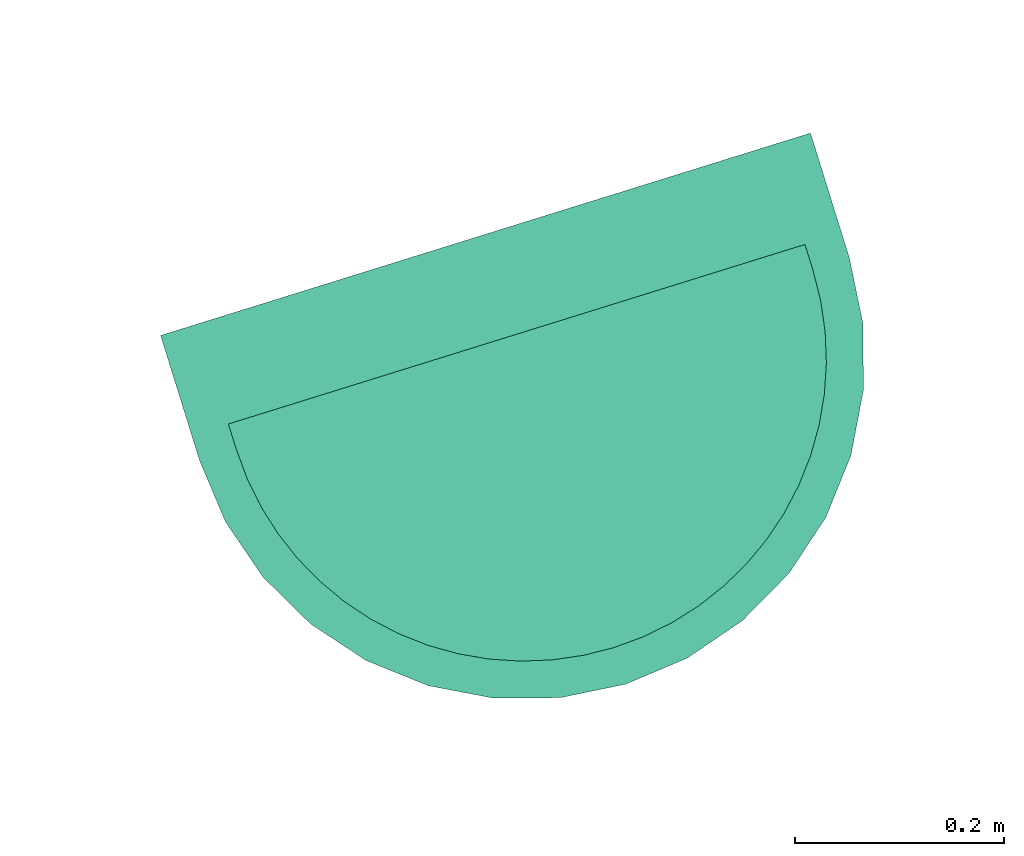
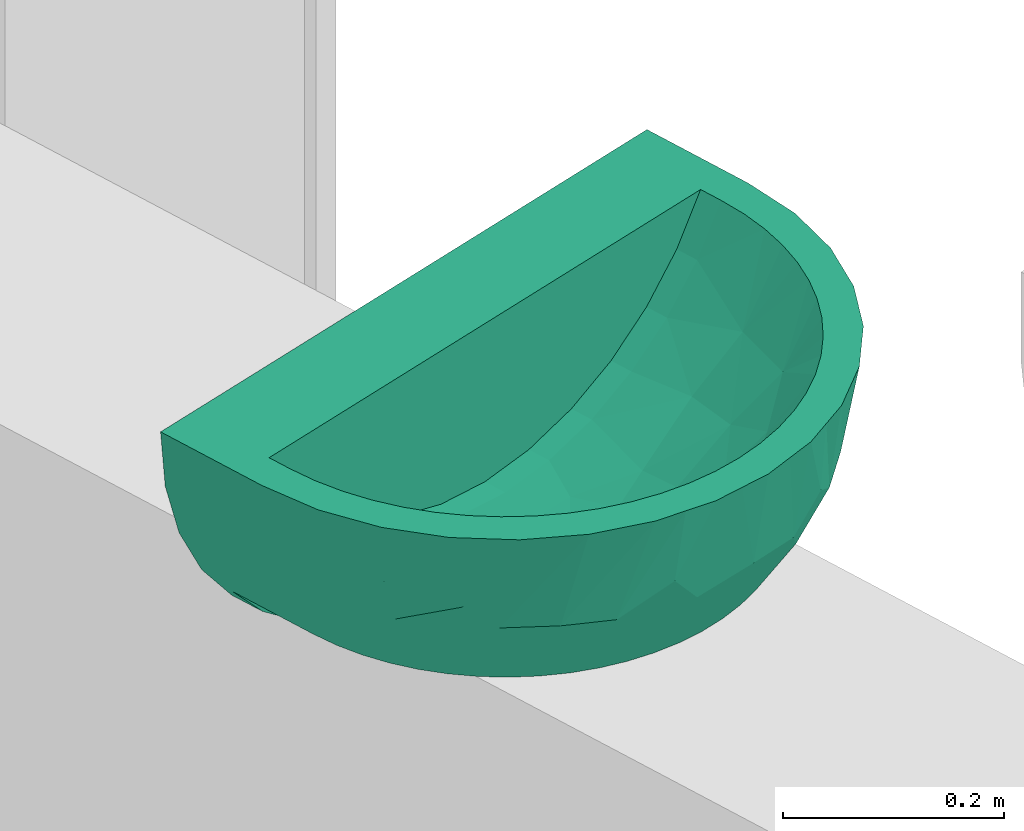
# Not in any storey, part 12 of 17: 1 sanitary terminal.
"""IFC4 model written with IfcOpenShell, lengths in metres."""

from ifc_helpers import new_model, entity, si_unit, converted_unit, direction, frame, origin, place, context, subcontext, project, polygons, source, transform, mapped, material, type_object, type_shapes, element, save


model = new_model("IFC4")

# Units and contexts
model_context = context("Model", 3, precision=1e-05, world=origin(), true_north=direction((6.12323399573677e-17, 1.0)))
body_context = subcontext(model_context, "Body", "Model", "MODEL_VIEW")
ifc_project = project(units=[si_unit("LENGTHUNIT", "METRE"), si_unit("AREAUNIT", "SQUARE_METRE"), converted_unit("PLANEANGLEUNIT", "DEGREE", entity("IfcPlaneAngleMeasure", 0.0174532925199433), si_unit("PLANEANGLEUNIT", "RADIAN"), dimensions=[0, 0, 0, 0, 0, 0, 0]), si_unit("VOLUMEUNIT", "CUBIC_METRE")], contexts=[model_context])

# Sanitary terminal
ifc_material = material(Name="<Unnamed>")
sanitary_terminal_type = type_object("IfcSanitaryTerminalType", Name="NLRS_74_PF_WB_wastafel_gen:wastafel", PredefinedType="SINK", material=ifc_material)
shared_shape = source(origin(), body_context, "Body", "Tessellation", [
    polygons([(-0.303081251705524, 0.175000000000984, -3.7), (-0.303081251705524, 0.0499999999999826, -3.7), (0.021918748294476, 0.0499999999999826, -3.7), (0.021918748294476, 0.150000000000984, -3.7), (-0.266395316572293, 0.150000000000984, -3.7), (-0.266395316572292, 0.175000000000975, -3.7), (-0.264816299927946, 0.205133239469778, -3.7), (-0.260095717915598, 0.234940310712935, -3.7), (-0.252285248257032, 0.264090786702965, -3.7), (-0.241470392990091, 0.292265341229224, -3.7), (-0.227769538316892, 0.319155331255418, -3.7), (-0.21133265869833, 0.344466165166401, -3.7), (-0.192339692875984, 0.367920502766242, -3.7), (-0.170998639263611, 0.389261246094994, -3.7), (-0.147543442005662, 0.408254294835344, -3.7), (-0.122231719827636, 0.424691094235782, -3.7), (-0.0953421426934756, 0.438391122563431, -3.7), (-0.0671705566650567, 0.449204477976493, -3.7), (-0.038024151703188, 0.457013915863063, -3.7), (-0.00821701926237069, 0.461734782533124, -3.7), (0.021918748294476, 0.463314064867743, -3.7), (0.021918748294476, 0.500000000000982, -3.7), (-0.0414856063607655, 0.493755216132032, -3.7), (-0.102453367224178, 0.475260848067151, -3.7), (-0.158641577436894, 0.44522762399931, -3.7), (-0.207890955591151, 0.404809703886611, -3.7), (-0.248308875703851, 0.355560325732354, -3.7), (-0.278342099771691, 0.299372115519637, -3.7), (-0.296836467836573, 0.238404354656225, -3.7), (0.346918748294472, 0.175000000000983, -3.7), (0.340673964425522, 0.238404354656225, -3.7), (0.32217959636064, 0.299372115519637, -3.7), (0.292146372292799, 0.355560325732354, -3.7), (0.2517284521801, 0.404809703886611, -3.7), (0.202479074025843, 0.44522762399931, -3.7), (0.146290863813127, 0.475260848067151, -3.7), (0.0853231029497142, 0.493755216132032, -3.7), (0.0520545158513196, 0.461734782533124, -3.7), (0.0818616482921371, 0.457013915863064, -3.7), (0.111008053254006, 0.449204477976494, -3.7), (0.139179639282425, 0.438391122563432, -3.7), (0.166069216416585, 0.424691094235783, -3.7), (0.191380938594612, 0.408254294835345, -3.7), (0.214836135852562, 0.389261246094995, -3.7), (0.236177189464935, 0.367920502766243, -3.7), (0.255170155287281, 0.344466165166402, -3.7), (0.271607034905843, 0.319155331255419, -3.7), (0.285307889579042, 0.292265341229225, -3.7), (0.296122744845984, 0.264090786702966, -3.7), (0.303933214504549, 0.234940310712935, -3.7), (0.308653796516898, 0.205133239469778, -3.7), (0.310232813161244, 0.175000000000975, -3.7), (0.310232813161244, 0.150000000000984, -3.7), (0.346918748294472, 0.0499999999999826, -3.7), (-0.298628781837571, 0.175000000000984, -3.75361232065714), (-0.285393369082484, 0.175000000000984, -3.8057556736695), (-0.263737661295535, 0.175000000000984, -3.85500134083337), (-0.234255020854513, 0.175000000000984, -3.9), (-0.234255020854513, 0.0749999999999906, -3.9), (-0.193925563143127, 0.0749999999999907, -3.94297372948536), (-0.146498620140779, 0.0749999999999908, -3.97795789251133), (-0.0935337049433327, 0.0749999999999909, -4.00380212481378), (-0.0367724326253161, 0.074999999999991, -4.01965660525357), (0.0219187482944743, 0.074999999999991, -4.025), (0.0806099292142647, 0.074999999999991, -4.01965660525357), (0.137371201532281, 0.0749999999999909, -4.00380212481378), (0.190336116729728, 0.0749999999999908, -3.97795789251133), (0.237763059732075, 0.0749999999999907, -3.94297372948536), (0.278092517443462, 0.0749999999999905, -3.9), (0.278092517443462, 0.175000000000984, -3.9), (0.307575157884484, 0.175000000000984, -3.85500134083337), (0.329230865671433, 0.175000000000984, -3.8057556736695), (0.34246627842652, 0.175000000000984, -3.75361232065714), (0.340673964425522, 0.0499999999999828, -3.76340435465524), (0.32217959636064, 0.049999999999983, -3.82437211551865), (0.292146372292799, 0.0499999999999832, -3.88056032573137), (0.2517284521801, 0.0499999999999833, -3.92980970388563), (0.202479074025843, 0.0499999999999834, -3.97022762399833), (0.146290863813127, 0.0499999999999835, -4.00026084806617), (0.085323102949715, 0.0499999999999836, -4.01875521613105), (0.0219187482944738, 0.0499999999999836, -4.025), (-0.0414856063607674, 0.0499999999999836, -4.01875521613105), (-0.102453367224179, 0.0499999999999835, -4.00026084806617), (-0.158641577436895, 0.0499999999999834, -3.97022762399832), (-0.207890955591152, 0.0499999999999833, -3.92980970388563), (-0.248308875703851, 0.0499999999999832, -3.88056032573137), (-0.278342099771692, 0.049999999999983, -3.82437211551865), (-0.296836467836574, 0.0499999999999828, -3.76340435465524), (-0.21409029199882, 0.0749999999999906, -3.92148686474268), (-0.170212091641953, 0.0749999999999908, -3.96046581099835), (0.214049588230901, 0.0749999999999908, -3.96046581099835), (0.257927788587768, 0.0749999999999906, -3.92148686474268), (0.27193741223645, 0.0499999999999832, -3.9051850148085), (0.227103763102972, 0.0499999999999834, -3.95001866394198), (0.174384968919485, 0.0499999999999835, -3.98524423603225), (0.115806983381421, 0.0499999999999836, -4.00950803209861), (-0.0719694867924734, 0.0499999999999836, -4.00950803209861), (-0.130547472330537, 0.0499999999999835, -3.98524423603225), (-0.183266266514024, 0.0499999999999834, -3.95001866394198), (-0.228099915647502, 0.0499999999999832, -3.9051850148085), (0.163853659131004, 0.0749999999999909, -3.99088000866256), (0.108990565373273, 0.0749999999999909, -4.01172936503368), (-0.0651530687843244, 0.0749999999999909, -4.01172936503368), (-0.120016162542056, 0.0749999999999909, -3.99088000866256), (0.27659082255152, 0.202697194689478, -3.9), (0.272103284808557, 0.230069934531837, -3.9), (0.264682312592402, 0.256797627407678, -3.9), (0.254414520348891, 0.282567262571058, -3.9), (0.24141970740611, 0.307076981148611, -3.9), (0.225849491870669, 0.330039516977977, -3.9), (0.207885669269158, 0.351185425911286, -3.9), (0.18773840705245, 0.370266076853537, -3.9), (0.165644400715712, 0.38705644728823, -3.9), (0.141864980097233, 0.401357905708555, -3.9), (0.116683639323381, 0.413001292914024, -3.9), (0.0904016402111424, 0.421850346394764, -3.9), (0.0633306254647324, 0.427804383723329, -3.9), (0.0357845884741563, 0.430798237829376, -3.9), (0.00807674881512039, 0.43079952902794, -3.9), (-0.0194777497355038, 0.427806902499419, -3.9), (-0.0465597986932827, 0.421851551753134, -3.9), (-0.0728496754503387, 0.412999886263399, -3.9), (-0.0980340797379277, 0.401354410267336, -3.9), (-0.121813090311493, 0.387052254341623, -3.9), (-0.1439051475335, 0.370262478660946, -3.9), (-0.164050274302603, 0.351183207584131, -3.9), (-0.182012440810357, 0.33003893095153, -3.9), (-0.197581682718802, 0.307077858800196, -3.9), (-0.210576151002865, 0.282569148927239, -3.9), (-0.220844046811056, 0.256799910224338, -3.9), (-0.228265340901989, 0.230071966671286, -3.9), (-0.232753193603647, 0.202698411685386, -3.9), (-0.257045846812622, 0.297316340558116, -3.81332461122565), (0.300884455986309, 0.297313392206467, -3.81332505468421), (-0.0097834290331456, 0.496877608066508, -3.7), (-0.205655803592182, 0.378737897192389, -3.81102113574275), (0.249493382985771, 0.378737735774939, -3.81102126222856), (0.0536209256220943, 0.496877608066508, -3.7), (0.0219337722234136, 0.481913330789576, -3.80690747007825), (-0.0719694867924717, 0.484508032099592, -3.7), (0.11580698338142, 0.484508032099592, -3.7), (-0.0425022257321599, 0.471258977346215, -3.81707073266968), (-0.165040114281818, 0.416191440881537, -3.81179477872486), (0.20887408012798, 0.416198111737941, -3.81178629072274), (0.0863501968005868, 0.471256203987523, -3.8170719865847), (-0.23446246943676, 0.305265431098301, -3.85140868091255), (0.278301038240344, 0.305263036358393, -3.85140892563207), (-0.120243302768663, 0.443687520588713, -3.81498681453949), (0.164074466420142, 0.443691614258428, -3.81498507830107), (-0.233336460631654, 0.358005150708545, -3.78353976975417), (0.277175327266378, 0.358003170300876, -3.78353992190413), (-0.290060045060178, 0.240925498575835, -3.76283359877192), (0.333897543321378, 0.240925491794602, -3.76283359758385), (-0.275008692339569, 0.237028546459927, -3.81666856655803), (-0.254394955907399, 0.239447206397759, -3.85850014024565), (-0.272362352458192, 0.296908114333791, -3.76451391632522), (0.31884634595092, 0.237026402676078, -3.81666930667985), (0.298232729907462, 0.239444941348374, -3.85850057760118), (0.316201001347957, 0.296905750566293, -3.76451312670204), (-0.0755829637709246, 0.474402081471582, -3.78047862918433), (-0.0690330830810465, 0.449635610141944, -3.84808121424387), (0.119420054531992, 0.474406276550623, -3.7804635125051), (0.112885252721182, 0.449636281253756, -3.84807095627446), (-0.228099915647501, 0.380185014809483, -3.7), (0.27193741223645, 0.380185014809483, -3.7), (-0.183266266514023, 0.425018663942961, -3.7), (0.227103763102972, 0.425018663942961, -3.7), (-0.130547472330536, 0.460244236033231, -3.7), (0.174384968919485, 0.460244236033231, -3.7), (-0.234514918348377, 0.175000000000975, -3.74966665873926), (-0.194178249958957, 0.175000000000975, -3.79274902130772), (-0.146715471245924, 0.175000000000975, -3.82782638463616), (-0.0936917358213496, 0.175000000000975, -3.85374202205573), (-0.0368555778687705, 0.175000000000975, -3.86964132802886), (0.0219187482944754, 0.175000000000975, -3.875), (0.0806930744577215, 0.175000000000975, -3.86964132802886), (0.137529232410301, 0.175000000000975, -3.85374202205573), (0.190552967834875, 0.175000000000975, -3.82782638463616), (0.238015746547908, 0.175000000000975, -3.79274902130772), (0.278352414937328, 0.175000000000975, -3.74966665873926), (-0.119627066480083, 0.322173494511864, -3.80284332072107), (0.163464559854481, 0.32217349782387, -3.8028433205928), (-0.200517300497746, 0.262511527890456, -3.77020203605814), (0.244354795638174, 0.262511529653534, -3.77020203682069), (-0.162633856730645, 0.347041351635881, -3.75485875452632), (0.206471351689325, 0.347041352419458, -3.75485875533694), (0.00220012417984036, 0.367185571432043, -3.81134437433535), (-0.0912046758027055, 0.393814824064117, -3.76200981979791), (0.135042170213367, 0.393814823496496, -3.76200982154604), (0.0498196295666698, 0.280825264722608, -3.85601887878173), (-0.0620730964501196, 0.266760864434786, -3.85025041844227), (0.160889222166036, 0.248929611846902, -3.83433540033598), (0.0405814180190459, 0.417340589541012, -3.76574926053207), (0.0863370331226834, 0.354389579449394, -3.81323879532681), (-0.00909478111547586, 0.420066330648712, -3.76120050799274), (-0.0478694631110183, 0.381606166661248, -3.79097405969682), (-0.0422183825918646, 0.327597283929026, -3.82968821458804), (-0.0074080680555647, 0.286981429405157, -3.8536858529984), (-0.00719351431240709, 0.22811728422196, -3.869305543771), (-0.0504034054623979, 0.422275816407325, -3.7481140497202), (0.115439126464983, 0.298042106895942, -3.83590134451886), (0.101584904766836, 0.237319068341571, -3.85886022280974), (-0.144773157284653, 0.251326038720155, -3.81835264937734), (0.0860600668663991, 0.418745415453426, -3.75518056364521), (-0.234512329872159, 0.150000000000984, -3.74966998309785), (-0.19417475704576, 0.150000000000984, -3.79275213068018), (-0.146711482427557, 0.150000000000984, -3.8278288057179), (-0.0936885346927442, 0.150000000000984, -3.85374324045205), (-0.0368543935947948, 0.150000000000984, -3.869641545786), (0.021917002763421, 0.150000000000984, -3.87499999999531), (0.080687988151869, 0.150000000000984, -3.86964226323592), (0.137520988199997, 0.150000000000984, -3.85374515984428), (0.19054233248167, 0.150000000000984, -3.82783283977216), (0.238003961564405, 0.150000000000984, -3.79275951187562), (0.278341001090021, 0.150000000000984, -3.74968131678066)], [[[22, 135, 23, 140, 24, 168, 25, 166, 26, 164, 27, 28, 29, 1, 2, 3, 54, 30, 31, 32, 33, 165, 34, 167, 35, 169, 36, 141, 37, 138], [21, 38, 39, 40, 41, 42, 43, 44, 45, 46, 47, 48, 49, 50, 51, 52, 53, 4, 5, 6, 7, 8, 9, 10, 11, 12, 13, 14, 15, 16, 17, 18, 19, 20]], [[55, 2, 1]], [[88, 55, 56]], [[56, 57, 87]], [[89, 100, 59]], [[97, 62, 103]], [[104, 83, 98]], [[82, 103, 63]], [[97, 103, 82]], [[63, 81, 82]], [[57, 58, 59]], [[68, 77, 94]], [[86, 59, 100]], [[86, 87, 57]], [[88, 2, 55]], [[56, 87, 88]], [[59, 86, 57]], [[98, 84, 61]], [[83, 62, 97]], [[60, 99, 85]], [[90, 61, 84]], [[69, 76, 93]], [[90, 99, 60]], [[100, 89, 85]], [[60, 85, 89]], [[78, 67, 91]], [[63, 64, 81]], [[66, 96, 102]], [[83, 104, 62]], [[68, 94, 91]], [[67, 78, 95]], [[79, 101, 95]], [[67, 95, 101]], [[72, 73, 74]], [[69, 70, 71]], [[75, 71, 72]], [[77, 68, 92]], [[81, 64, 65]], [[54, 73, 30]], [[99, 90, 84]], [[102, 80, 65]], [[79, 66, 101]], [[91, 94, 78]], [[80, 102, 96]], [[65, 80, 81]], [[66, 79, 96]], [[93, 77, 92]], [[69, 71, 76]], [[75, 76, 71]], [[72, 74, 75]], [[73, 54, 74]], [[69, 93, 92]], [[98, 61, 104]], [[74, 54, 3, 2, 88, 87, 86, 100, 85, 99, 84, 98, 83, 97, 82, 81, 80, 96, 79, 95, 78, 94, 77, 93, 76, 75]], [[143, 136, 25]], [[32, 159, 33]], [[134, 157, 158]], [[143, 125, 126]], [[146, 150, 136]], [[126, 127, 143]], [[109, 147, 108]], [[136, 143, 127]], [[125, 143, 148]], [[153, 157, 159]], [[121, 122, 161]], [[142, 135, 139]], [[153, 159, 32]], [[119, 120, 142]], [[24, 148, 143]], [[142, 160, 23]], [[147, 151, 134]], [[160, 161, 148]], [[124, 148, 123]], [[140, 148, 24]], [[160, 140, 23]], [[158, 106, 107]], [[128, 146, 136]], [[29, 28, 152]], [[148, 140, 160]], [[55, 152, 56]], [[156, 133, 154]], [[29, 55, 1]], [[152, 55, 29]], [[151, 34, 165]], [[137, 151, 147]], [[156, 28, 27]], [[121, 161, 142]], [[119, 142, 139]], [[131, 155, 130]], [[129, 130, 146]], [[149, 112, 113]], [[150, 26, 166]], [[58, 57, 155]], [[139, 118, 119]], [[56, 154, 57]], [[155, 57, 154]], [[161, 123, 148]], [[138, 145, 139]], [[155, 146, 130]], [[127, 128, 136]], [[133, 164, 150]], [[155, 132, 58]], [[161, 160, 142]], [[145, 138, 37]], [[71, 70, 158]], [[128, 129, 146]], [[139, 135, 22]], [[138, 139, 22]], [[139, 145, 118]], [[135, 142, 23]], [[145, 116, 117]], [[114, 149, 113]], [[149, 141, 36]], [[144, 35, 137]], [[154, 152, 156]], [[146, 155, 133]], [[110, 144, 137]], [[148, 124, 125]], [[163, 145, 162]], [[151, 165, 134]], [[144, 112, 149]], [[137, 109, 110]], [[118, 145, 117]], [[154, 133, 155]], [[162, 145, 37]], [[28, 156, 152]], [[150, 146, 133]], [[24, 143, 25, 168]], [[111, 112, 144]], [[110, 111, 144]], [[116, 145, 163]], [[137, 167, 151]], [[109, 137, 147]], [[120, 121, 142]], [[71, 158, 157]], [[107, 147, 158]], [[162, 37, 141]], [[147, 134, 158]], [[107, 108, 147]], [[157, 72, 71]], [[70, 105, 158]], [[152, 154, 56]], [[153, 31, 73]], [[114, 115, 163]], [[137, 35, 167]], [[156, 164, 133]], [[30, 73, 31]], [[153, 73, 72]], [[150, 166, 136]], [[157, 134, 159]], [[105, 106, 158]], [[31, 153, 32]], [[144, 36, 169, 35]], [[155, 131, 132]], [[164, 26, 150]], [[159, 134, 165]], [[157, 153, 72]], [[161, 122, 123]], [[141, 149, 162]], [[149, 114, 163]], [[149, 163, 162]], [[116, 163, 115]], [[164, 156, 27]], [[165, 33, 159]], [[25, 136, 166]], [[34, 151, 167]], [[36, 144, 149]], [[16, 15, 185]], [[190, 187, 198]], [[14, 13, 185]], [[199, 202, 190]], [[197, 198, 187]], [[183, 185, 11]], [[188, 17, 16]], [[191, 197, 181]], [[21, 195, 193]], [[193, 194, 204]], [[191, 203, 173]], [[197, 187, 196]], [[195, 200, 196]], [[20, 195, 21]], [[188, 16, 185]], [[195, 196, 187]], [[188, 196, 200]], [[198, 197, 191]], [[8, 183, 9]], [[188, 200, 18]], [[8, 7, 170]], [[201, 194, 190]], [[192, 201, 202]], [[170, 7, 6]], [[10, 9, 183]], [[20, 19, 200]], [[203, 183, 171]], [[173, 203, 172]], [[190, 202, 201]], [[171, 183, 170]], [[170, 183, 8]], [[185, 13, 12]], [[10, 183, 11]], [[179, 184, 178]], [[17, 188, 18]], [[12, 11, 185]], [[198, 199, 190]], [[14, 185, 15]], [[196, 188, 181]], [[174, 199, 191]], [[195, 187, 193]], [[182, 189, 194]], [[186, 42, 189]], [[182, 192, 184]], [[202, 176, 177]], [[189, 41, 40]], [[39, 38, 204]], [[43, 42, 186]], [[45, 44, 186]], [[197, 196, 181]], [[186, 184, 47]], [[194, 193, 187]], [[204, 189, 40]], [[186, 47, 46]], [[194, 201, 182]], [[44, 43, 186]], [[174, 175, 199]], [[48, 47, 184]], [[42, 41, 189]], [[174, 191, 173]], [[178, 184, 192]], [[192, 177, 178]], [[182, 184, 186]], [[181, 183, 203]], [[199, 198, 191]], [[181, 188, 185]], [[179, 180, 184]], [[200, 195, 20]], [[18, 200, 19]], [[180, 50, 184]], [[52, 51, 180]], [[50, 180, 51]], [[38, 21, 193]], [[46, 45, 186]], [[202, 199, 175]], [[184, 50, 49]], [[48, 184, 49]], [[181, 185, 183]], [[192, 182, 201]], [[40, 39, 204]], [[190, 194, 187]], [[182, 186, 189]], [[192, 202, 177]], [[175, 176, 202]], [[181, 203, 191]], [[172, 203, 171]], [[189, 204, 194]], [[193, 204, 38]], [[6, 5, 170]], [[170, 205, 171]], [[173, 172, 207]], [[206, 172, 171]], [[174, 173, 208]], [[170, 5, 205]], [[171, 205, 206]], [[174, 209, 210]], [[173, 207, 208]], [[174, 208, 209]], [[207, 172, 206]], [[210, 175, 174]], [[176, 175, 211]], [[176, 212, 177]], [[179, 178, 214]], [[213, 178, 177]], [[180, 179, 215]], [[212, 176, 211]], [[213, 177, 212]], [[214, 215, 179]], [[178, 213, 214]], [[53, 180, 215]], [[180, 53, 52]], [[210, 211, 175]], [[215, 214, 213, 212, 211, 210, 209, 208, 207, 206, 205, 5, 4, 53]], [[67, 101, 66, 102, 65, 64, 63, 103, 62, 104, 61, 90, 60, 89, 59, 69, 92, 68, 91]], [[69, 59, 58, 132, 131, 130, 129, 128, 127, 126, 125, 124, 123, 122, 121, 120, 119, 118, 117, 116, 115, 114, 113, 112, 111, 110, 109, 108, 107, 106, 105, 70]]], closed=True),
])
type_shapes(sanitary_terminal_type, [shared_shape])
placement_1 = place(None, frame((13.1347999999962, 11.9886000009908, 0.0), z_axis=(0.0, 0.0, 1.0), x_axis=(0.954770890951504, 0.297342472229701, 0.0)))
placement_2 = place(placement_1, origin())
placement_3 = place(placement_2, frame((0.0, 0.0, 3.9)))
placement_4 = place(placement_3, origin())
sanitary_terminal_placement = place(placement_4, frame((62.5219187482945, 28.6749999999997, 4.525), z_axis=(0.0, 0.0, 1.0), x_axis=(-1.0, 0.0, 0.0)))
element("IfcSanitaryTerminal", 1, at=sanitary_terminal_placement, type_object=sanitary_terminal_type, material=ifc_material, Name="NLRS_74_PF_WB_wastafel_gen:wastafel", ObjectType="NLRS_74_PF_WB_wastafel_gen:wastafel", PredefinedType="SINK", context=body_context, shape_type="MappedRepresentation", body=[
    mapped(shared_shape, transform((0.0, 0.0, 0.0), scale=1.0)),
])

save(model, "model.ifc")
